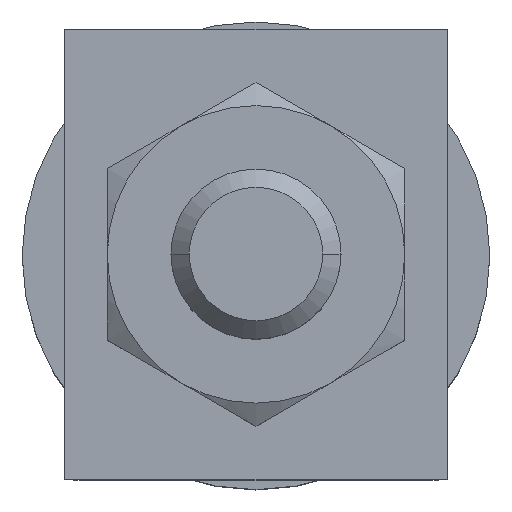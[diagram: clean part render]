
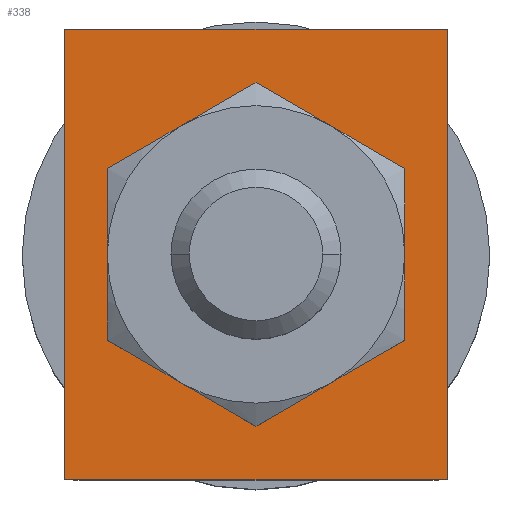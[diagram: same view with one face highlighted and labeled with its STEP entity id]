
A CAD part, top view. The second image highlights one B-rep face of the part: STEP entity #338.
In plain terms, the highlighted planar face has unit normal (0, 0, 1).
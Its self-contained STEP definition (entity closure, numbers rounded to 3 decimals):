
#338=ADVANCED_FACE('',(#627,#628),#629,.F.);
#627=FACE_BOUND('',#914,.T.);
#628=FACE_OUTER_BOUND('',#915,.T.);
#629=PLANE('',#916);
#914=EDGE_LOOP('',(#1449,#1450));
#915=EDGE_LOOP('',(#1451,#1452,#1453,#1454));
#916=AXIS2_PLACEMENT_3D('',#1455,#1456,#1457);
#1449=ORIENTED_EDGE('',*,*,#1876,.T.);
#1450=ORIENTED_EDGE('',*,*,#1912,.T.);
#1451=ORIENTED_EDGE('',*,*,#1921,.T.);
#1452=ORIENTED_EDGE('',*,*,#1922,.T.);
#1453=ORIENTED_EDGE('',*,*,#1909,.T.);
#1454=ORIENTED_EDGE('',*,*,#1919,.T.);
#1455=CARTESIAN_POINT('',(0.0,0.0,8.75));
#1456=DIRECTION('',(0.0,0.0,-1.0));
#1457=DIRECTION('',(0.0,1.0,0.0));
#1876=EDGE_CURVE('',#2199,#2203,#2205,.T.);
#1909=EDGE_CURVE('',#2255,#2253,#2256,.T.);
#1912=EDGE_CURVE('',#2203,#2199,#2259,.T.);
#1919=EDGE_CURVE('',#2253,#2265,#2267,.T.);
#1921=EDGE_CURVE('',#2265,#2269,#2270,.T.);
#1922=EDGE_CURVE('',#2269,#2255,#2271,.T.);
#2199=VERTEX_POINT('',#2878);
#2203=VERTEX_POINT('',#2883);
#2205=CIRCLE('',#2886,2.0);
#2253=VERTEX_POINT('',#2956);
#2255=VERTEX_POINT('',#2959);
#2256=LINE('',#2960,#2961);
#2259=CIRCLE('',#2965,2.0);
#2265=VERTEX_POINT('',#2973);
#2267=LINE('',#2976,#2977);
#2269=VERTEX_POINT('',#2979);
#2270=LINE('',#2980,#2981);
#2271=LINE('',#2982,#2983);
#2878=CARTESIAN_POINT('',(0.0,2.0,8.75));
#2883=CARTESIAN_POINT('',(0.,-2.0,8.75));
#2886=AXIS2_PLACEMENT_3D('',#3318,#3319,#3320);
#2956=CARTESIAN_POINT('',(4.5,-5.3,8.75));
#2959=CARTESIAN_POINT('',(-4.5,-5.3,8.75));
#2960=CARTESIAN_POINT('',(0.0,-5.3,8.75));
#2961=VECTOR('',#3344,1.0);
#2965=AXIS2_PLACEMENT_3D('',#3346,#3347,#3348);
#2973=CARTESIAN_POINT('',(4.5,5.3,8.75));
#2976=CARTESIAN_POINT('',(4.5,0.0,8.75));
#2977=VECTOR('',#3355,1.0);
#2979=CARTESIAN_POINT('',(-4.5,5.3,8.75));
#2980=CARTESIAN_POINT('',(0.0,5.3,8.75));
#2981=VECTOR('',#3356,1.0);
#2982=CARTESIAN_POINT('',(-4.5,0.0,8.75));
#2983=VECTOR('',#3357,1.0);
#3318=CARTESIAN_POINT('',(0.0,0.0,8.75));
#3319=DIRECTION('',(0.0,0.0,-1.0));
#3320=DIRECTION('',(0.0,1.0,0.0));
#3344=DIRECTION('',(1.0,0.0,0.0));
#3346=CARTESIAN_POINT('',(0.0,0.0,8.75));
#3347=DIRECTION('',(0.0,0.0,-1.0));
#3348=DIRECTION('',(0.0,1.0,0.0));
#3355=DIRECTION('',(0.0,1.0,0.0));
#3356=DIRECTION('',(-1.0,0.0,0.0));
#3357=DIRECTION('',(0.0,-1.0,0.0));
